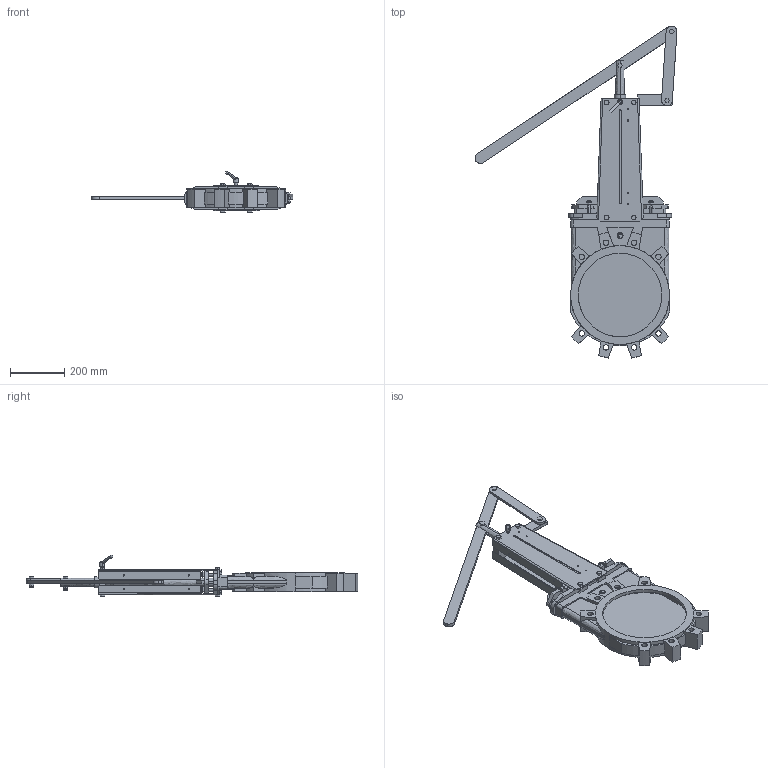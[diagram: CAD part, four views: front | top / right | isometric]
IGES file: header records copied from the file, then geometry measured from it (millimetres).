
Start section: SolidWorks IGES file using NURBS representation for surfaces
Global section: file name: H:\BE BIBLIOTHEQUE 3D\VG\VG-02 LEVER(DN50-300)\VG L DN300\VG L DN300.IGS; native system: SolidWorks 2011; preprocessor: SolidWorks 2011; author: c.aries; date: 121003.143910; units: millimetre
Bounding box: 745.24 x 1224.96 x 151.83 mm (x, y, z)
Volume: 8814121.9 mm3; surface area: 1288081.7 mm2
Topology: 2 solids, 10 shells, 915 faces, 2413 edges, 1567 vertices
Faces by surface type: bspline 915
